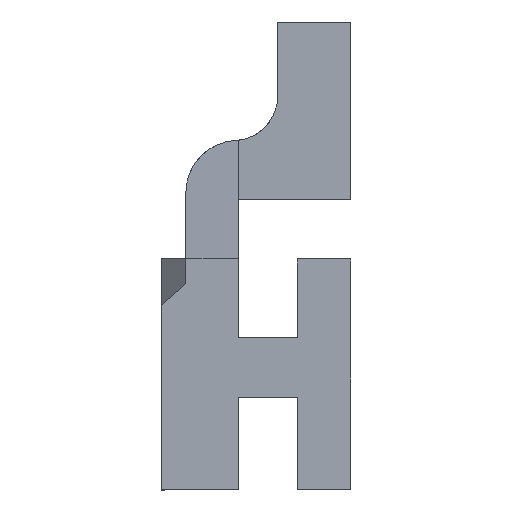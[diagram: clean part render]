
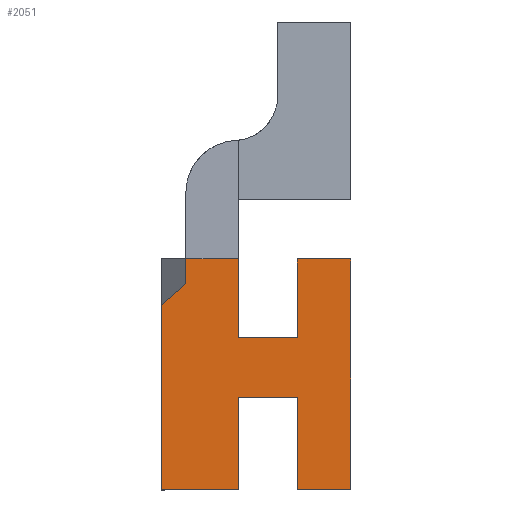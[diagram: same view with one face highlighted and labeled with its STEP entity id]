
A CAD part, left-side view. The second image highlights one B-rep face of the part: STEP entity #2051.
In plain terms, the highlighted planar face has unit normal (-1, 0, 0).
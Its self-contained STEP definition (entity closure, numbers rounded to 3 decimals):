
#29=PLANE('',#2184);
#124=FACE_OUTER_BOUND('',#235,.T.);
#235=EDGE_LOOP('',(#1517,#1518,#1519,#1520,#1521,#1522,#1523,#1524,#1525,
#1526,#1527,#1528,#1529,#1530,#1531,#1532));
#387=LINE('',#2940,#652);
#393=LINE('',#2952,#658);
#399=LINE('',#2966,#664);
#403=LINE('',#2976,#668);
#470=LINE('',#3111,#735);
#472=LINE('',#3115,#737);
#473=LINE('',#3117,#738);
#474=LINE('',#3119,#739);
#475=LINE('',#3120,#740);
#476=LINE('',#3122,#741);
#477=LINE('',#3124,#742);
#478=LINE('',#3126,#743);
#479=LINE('',#3128,#744);
#480=LINE('',#3130,#745);
#481=LINE('',#3131,#746);
#482=LINE('',#3132,#747);
#652=VECTOR('',#2350,10.);
#658=VECTOR('',#2358,10.);
#664=VECTOR('',#2370,10.);
#668=VECTOR('',#2376,10.);
#735=VECTOR('',#2449,10.);
#737=VECTOR('',#2453,10.);
#738=VECTOR('',#2454,10.);
#739=VECTOR('',#2455,10.);
#740=VECTOR('',#2456,10.);
#741=VECTOR('',#2457,10.);
#742=VECTOR('',#2458,10.);
#743=VECTOR('',#2459,10.);
#744=VECTOR('',#2460,10.);
#745=VECTOR('',#2461,10.);
#746=VECTOR('',#2462,10.);
#747=VECTOR('',#2463,10.);
#923=VERTEX_POINT('',#2937);
#924=VERTEX_POINT('',#2939);
#928=VERTEX_POINT('',#2949);
#929=VERTEX_POINT('',#2951);
#938=VERTEX_POINT('',#2973);
#939=VERTEX_POINT('',#2975);
#1003=VERTEX_POINT('',#3108);
#1004=VERTEX_POINT('',#3110);
#1005=VERTEX_POINT('',#3114);
#1006=VERTEX_POINT('',#3116);
#1007=VERTEX_POINT('',#3118);
#1008=VERTEX_POINT('',#3121);
#1009=VERTEX_POINT('',#3123);
#1010=VERTEX_POINT('',#3125);
#1011=VERTEX_POINT('',#3127);
#1012=VERTEX_POINT('',#3129);
#1121=EDGE_CURVE('',#924,#923,#387,.T.);
#1127=EDGE_CURVE('',#929,#928,#393,.T.);
#1135=EDGE_CURVE('',#923,#929,#399,.T.);
#1139=EDGE_CURVE('',#939,#938,#403,.T.);
#1206=EDGE_CURVE('',#1004,#1003,#470,.T.);
#1208=EDGE_CURVE('',#938,#1005,#472,.T.);
#1209=EDGE_CURVE('',#1005,#1006,#473,.T.);
#1210=EDGE_CURVE('',#1006,#1007,#474,.T.);
#1211=EDGE_CURVE('',#1007,#924,#475,.T.);
#1212=EDGE_CURVE('',#928,#1008,#476,.T.);
#1213=EDGE_CURVE('',#1008,#1009,#477,.T.);
#1214=EDGE_CURVE('',#1009,#1010,#478,.T.);
#1215=EDGE_CURVE('',#1010,#1011,#479,.T.);
#1216=EDGE_CURVE('',#1011,#1012,#480,.T.);
#1217=EDGE_CURVE('',#1012,#1004,#481,.T.);
#1218=EDGE_CURVE('',#1003,#939,#482,.T.);
#1517=ORIENTED_EDGE('',*,*,#1208,.T.);
#1518=ORIENTED_EDGE('',*,*,#1209,.T.);
#1519=ORIENTED_EDGE('',*,*,#1210,.T.);
#1520=ORIENTED_EDGE('',*,*,#1211,.T.);
#1521=ORIENTED_EDGE('',*,*,#1121,.T.);
#1522=ORIENTED_EDGE('',*,*,#1135,.T.);
#1523=ORIENTED_EDGE('',*,*,#1127,.T.);
#1524=ORIENTED_EDGE('',*,*,#1212,.T.);
#1525=ORIENTED_EDGE('',*,*,#1213,.T.);
#1526=ORIENTED_EDGE('',*,*,#1214,.T.);
#1527=ORIENTED_EDGE('',*,*,#1215,.T.);
#1528=ORIENTED_EDGE('',*,*,#1216,.T.);
#1529=ORIENTED_EDGE('',*,*,#1217,.T.);
#1530=ORIENTED_EDGE('',*,*,#1206,.T.);
#1531=ORIENTED_EDGE('',*,*,#1218,.T.);
#1532=ORIENTED_EDGE('',*,*,#1139,.T.);
#2051=ADVANCED_FACE('',(#124),#29,.T.);
#2184=AXIS2_PLACEMENT_3D('',#3113,#2451,#2452);
#2350=DIRECTION('',(0.,-1.,0.));
#2358=DIRECTION('',(0.,-1.,0.));
#2370=DIRECTION('',(0.,-1.,0.));
#2376=DIRECTION('',(0.,0.,-1.));
#2449=DIRECTION('',(0.,0.653,0.758));
#2451=DIRECTION('center_axis',(-1.,0.,0.));
#2452=DIRECTION('ref_axis',(0.,0.,1.));
#2453=DIRECTION('',(0.,-1.,0.));
#2454=DIRECTION('',(0.,0.,-1.));
#2455=DIRECTION('',(0.,1.,0.));
#2456=DIRECTION('',(0.,0.,-1.));
#2457=DIRECTION('',(0.,0.,1.));
#2458=DIRECTION('',(0.,1.,0.));
#2459=DIRECTION('',(0.,0.,1.));
#2460=DIRECTION('',(0.,-1.,0.));
#2461=DIRECTION('',(0.,0.,1.));
#2462=DIRECTION('',(0.,1.,0.));
#2463=DIRECTION('',(0.,1.,0.));
#2937=CARTESIAN_POINT('',(-30.5,4.35,-9.7));
#2939=CARTESIAN_POINT('',(-30.5,5.85,-9.7));
#2940=CARTESIAN_POINT('',(-30.5,-2.925,-9.7));
#2949=CARTESIAN_POINT('',(-30.5,-5.85,-9.7));
#2951=CARTESIAN_POINT('',(-30.5,-4.35,-9.7));
#2952=CARTESIAN_POINT('',(-30.5,-2.925,-9.7));
#2966=CARTESIAN_POINT('',(-30.5,-2.925,-9.7));
#2973=CARTESIAN_POINT('',(-30.5,5.85,-4.));
#2975=CARTESIAN_POINT('',(-30.5,5.85,-0.1));
#2976=CARTESIAN_POINT('',(-30.5,5.85,-1.795));
#3108=CARTESIAN_POINT('',(-30.5,-3.509,-0.1));
#3110=CARTESIAN_POINT('',(-30.5,-4.585,-1.35));
#3111=CARTESIAN_POINT('',(-30.5,-2.963,0.533));
#3113=CARTESIAN_POINT('Origin',(-30.5,0.,0.));
#3114=CARTESIAN_POINT('',(-30.5,1.15,-4.));
#3115=CARTESIAN_POINT('',(-30.5,0.575,-4.));
#3116=CARTESIAN_POINT('',(-30.5,1.15,-7.));
#3117=CARTESIAN_POINT('',(-30.5,1.15,-3.5));
#3118=CARTESIAN_POINT('',(-30.5,5.85,-7.));
#3119=CARTESIAN_POINT('',(-30.5,2.925,-7.));
#3120=CARTESIAN_POINT('',(-30.5,5.85,-1.795));
#3121=CARTESIAN_POINT('',(-30.5,-5.85,-7.));
#3122=CARTESIAN_POINT('',(-30.5,-5.85,-1.795));
#3123=CARTESIAN_POINT('',(-30.5,-1.85,-7.));
#3124=CARTESIAN_POINT('',(-30.5,-0.925,-7.));
#3125=CARTESIAN_POINT('',(-30.5,-1.85,-4.));
#3126=CARTESIAN_POINT('',(-30.5,-1.85,-2.));
#3127=CARTESIAN_POINT('',(-30.5,-5.85,-4.));
#3128=CARTESIAN_POINT('',(-30.5,-2.925,-4.));
#3129=CARTESIAN_POINT('',(-30.5,-5.85,-1.35));
#3130=CARTESIAN_POINT('',(-30.5,-5.85,-1.795));
#3131=CARTESIAN_POINT('',(-30.5,-2.925,-1.35));
#3132=CARTESIAN_POINT('',(-30.5,-2.925,-0.1));
